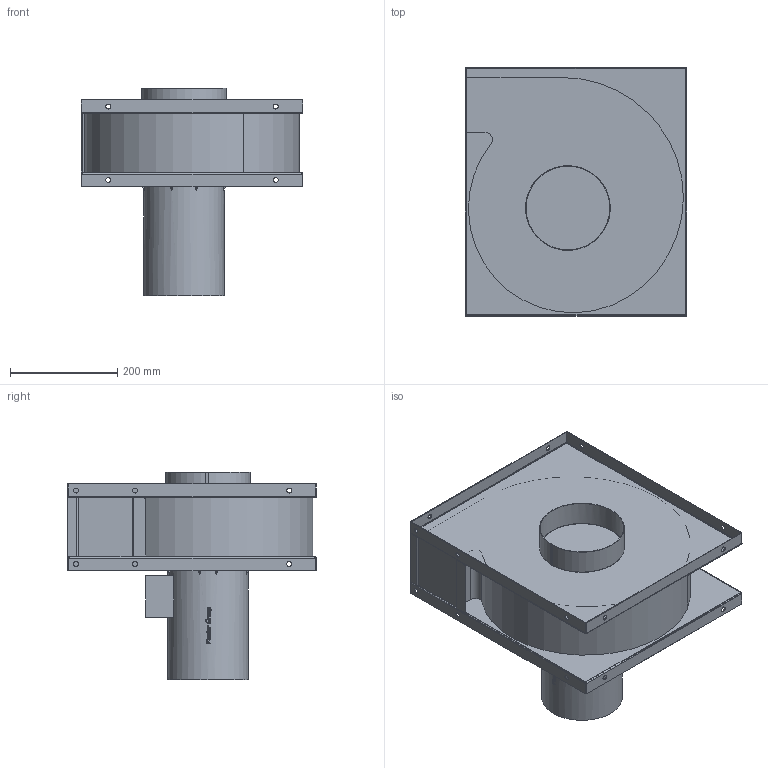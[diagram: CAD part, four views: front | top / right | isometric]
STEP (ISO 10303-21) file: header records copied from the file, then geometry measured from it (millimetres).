
FILE_DESCRIPTION(/* description */ (''),/* implementation_level */ '2;1');
FILE_NAME(/* name */ 'T:\BAZA\BAZA\Modele uproszczone\GMT\GMT_100_075S_42551650\GMT_100_075S_42551650.stp',/* time_stamp */ '2016-08-17T14:48:26+02:00',/* author */ ('tomaszm'),/* organization */ (''),/* preprocessor_version */ 'ST-DEVELOPER v16.5',/* originating_system */ 'Autodesk Inventor 2017',/* authorisation */ '');
FILE_SCHEMA (('AUTOMOTIVE_DESIGN { 1 0 10303 214 3 1 1 }'));
Length unit declared in the file: centimetre
Products named in the file (1): GMT-100-075
Bounding box: 413 x 463 x 386.5 mm (x, y, z)
Volume: 21211506.1 mm3; surface area: 987908.1 mm2
Topology: 1 solids, 1 shells, 634 faces, 1811 edges, 1199 vertices
Faces by surface type: bspline 290, plane 263, cylinder 80, torus 1
Full cylindrical faces by diameter (mm): 9.2 x18, 149.9 x1, 200 x1, 370 x1
Entity records: 26898 total; most frequent: CARTESIAN_POINT 11960, ORIENTED_EDGE 3584, DIRECTION 2124, EDGE_CURVE 1784, VERTEX_POINT 1195, LINE 902, VECTOR 902, EDGE_LOOP 729
